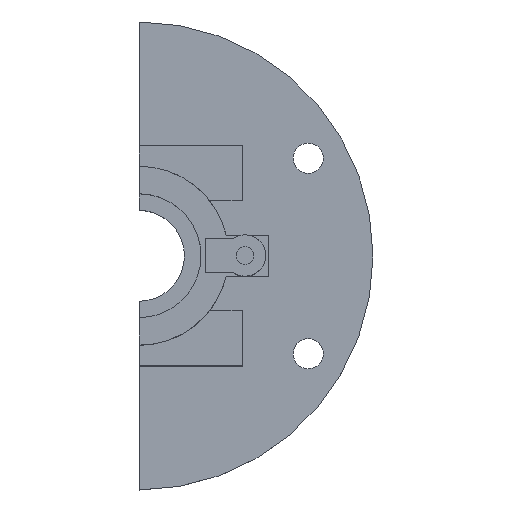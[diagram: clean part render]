
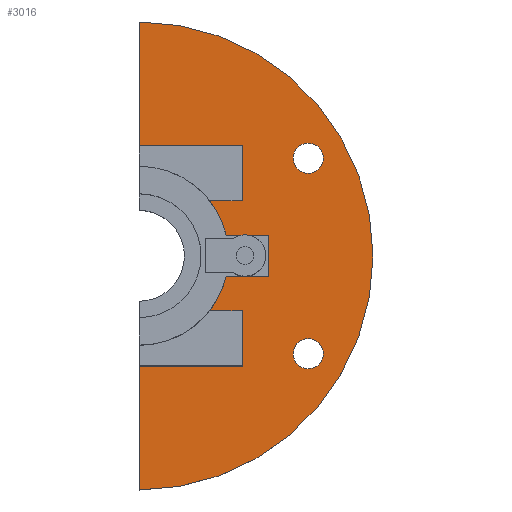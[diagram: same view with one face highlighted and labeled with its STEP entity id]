
A CAD part, top view. The second image highlights one B-rep face of the part: STEP entity #3016.
In plain terms, the highlighted planar face has unit normal (0, 0, 1).
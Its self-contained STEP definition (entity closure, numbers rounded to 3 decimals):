
#32 = CYLINDRICAL_SURFACE('',#33,6.5);
#33 = AXIS2_PLACEMENT_3D('',#34,#35,#36);
#34 = CARTESIAN_POINT('',(0.,0.,1.5));
#35 = DIRECTION('',(0.,0.,1.));
#36 = DIRECTION('',(1.,0.,-0.));
#44 = PLANE('',#45);
#45 = AXIS2_PLACEMENT_3D('',#46,#47,#48);
#46 = CARTESIAN_POINT('',(0.,-60.,-70.));
#47 = DIRECTION('',(1.,0.,0.));
#48 = DIRECTION('',(0.,0.,1.));
#210 = PLANE('',#211);
#211 = AXIS2_PLACEMENT_3D('',#212,#213,#214);
#212 = CARTESIAN_POINT('',(0.,-60.,-70.));
#213 = DIRECTION('',(1.,0.,0.));
#214 = DIRECTION('',(0.,0.,1.));
#307 = VERTEX_POINT('',#308);
#308 = CARTESIAN_POINT('',(0.,-6.5,3.));
#328 = EDGE_CURVE('',#307,#329,#331,.T.);
#329 = VERTEX_POINT('',#330);
#330 = CARTESIAN_POINT('',(0.,6.5,3.));
#331 = SURFACE_CURVE('',#332,(#337,#344),.PCURVE_S1.);
#332 = CIRCLE('',#333,6.5);
#333 = AXIS2_PLACEMENT_3D('',#334,#335,#336);
#334 = CARTESIAN_POINT('',(0.,0.,3.));
#335 = DIRECTION('',(0.,0.,1.));
#336 = DIRECTION('',(0.,-1.,0.));
#337 = PCURVE('',#32,#338);
#338 = DEFINITIONAL_REPRESENTATION('',(#339),#343);
#339 = LINE('',#340,#341);
#340 = CARTESIAN_POINT('',(4.712,1.5));
#341 = VECTOR('',#342,1.);
#342 = DIRECTION('',(1.,0.));
#343 = ( GEOMETRIC_REPRESENTATION_CONTEXT(2) 
PARAMETRIC_REPRESENTATION_CONTEXT() REPRESENTATION_CONTEXT('2D SPACE',''
  ) );
#344 = PCURVE('',#345,#350);
#345 = PLANE('',#346);
#346 = AXIS2_PLACEMENT_3D('',#347,#348,#349);
#347 = CARTESIAN_POINT('',(0.,0.,3.));
#348 = DIRECTION('',(0.,0.,1.));
#349 = DIRECTION('',(1.,0.,-0.));
#350 = DEFINITIONAL_REPRESENTATION('',(#351),#355);
#351 = CIRCLE('',#352,6.5);
#352 = AXIS2_PLACEMENT_2D('',#353,#354);
#353 = CARTESIAN_POINT('',(0.,0.));
#354 = DIRECTION('',(0.,-1.));
#355 = ( GEOMETRIC_REPRESENTATION_CONTEXT(2) 
PARAMETRIC_REPRESENTATION_CONTEXT() REPRESENTATION_CONTEXT('2D SPACE',''
  ) );
#773 = VERTEX_POINT('',#774);
#774 = CARTESIAN_POINT('',(0.,17.,3.));
#788 = CYLINDRICAL_SURFACE('',#789,17.);
#789 = AXIS2_PLACEMENT_3D('',#790,#791,#792);
#790 = CARTESIAN_POINT('',(0.,0.,1.5));
#791 = DIRECTION('',(0.,0.,1.));
#792 = DIRECTION('',(1.,0.,-0.));
#799 = EDGE_CURVE('',#329,#773,#800,.T.);
#800 = SURFACE_CURVE('',#801,(#805,#812),.PCURVE_S1.);
#801 = LINE('',#802,#803);
#802 = CARTESIAN_POINT('',(0.,-30.,3.));
#803 = VECTOR('',#804,1.);
#804 = DIRECTION('',(0.,1.,0.));
#805 = PCURVE('',#44,#806);
#806 = DEFINITIONAL_REPRESENTATION('',(#807),#811);
#807 = LINE('',#808,#809);
#808 = CARTESIAN_POINT('',(73.,-30.));
#809 = VECTOR('',#810,1.);
#810 = DIRECTION('',(0.,-1.));
#811 = ( GEOMETRIC_REPRESENTATION_CONTEXT(2) 
PARAMETRIC_REPRESENTATION_CONTEXT() REPRESENTATION_CONTEXT('2D SPACE',''
  ) );
#812 = PCURVE('',#345,#813);
#813 = DEFINITIONAL_REPRESENTATION('',(#814),#818);
#814 = LINE('',#815,#816);
#815 = CARTESIAN_POINT('',(0.,-30.));
#816 = VECTOR('',#817,1.);
#817 = DIRECTION('',(0.,1.));
#818 = ( GEOMETRIC_REPRESENTATION_CONTEXT(2) 
PARAMETRIC_REPRESENTATION_CONTEXT() REPRESENTATION_CONTEXT('2D SPACE',''
  ) );
#1347 = EDGE_CURVE('',#1348,#307,#1350,.T.);
#1348 = VERTEX_POINT('',#1349);
#1349 = CARTESIAN_POINT('',(0.,-17.,3.));
#1350 = SURFACE_CURVE('',#1351,(#1355,#1362),.PCURVE_S1.);
#1351 = LINE('',#1352,#1353);
#1352 = CARTESIAN_POINT('',(0.,-30.,3.));
#1353 = VECTOR('',#1354,1.);
#1354 = DIRECTION('',(0.,1.,0.));
#1355 = PCURVE('',#210,#1356);
#1356 = DEFINITIONAL_REPRESENTATION('',(#1357),#1361);
#1357 = LINE('',#1358,#1359);
#1358 = CARTESIAN_POINT('',(73.,-30.));
#1359 = VECTOR('',#1360,1.);
#1360 = DIRECTION('',(0.,-1.));
#1361 = ( GEOMETRIC_REPRESENTATION_CONTEXT(2) 
PARAMETRIC_REPRESENTATION_CONTEXT() REPRESENTATION_CONTEXT('2D SPACE',''
  ) );
#1362 = PCURVE('',#345,#1363);
#1363 = DEFINITIONAL_REPRESENTATION('',(#1364),#1368);
#1364 = LINE('',#1365,#1366);
#1365 = CARTESIAN_POINT('',(0.,-30.));
#1366 = VECTOR('',#1367,1.);
#1367 = DIRECTION('',(0.,1.));
#1368 = ( GEOMETRIC_REPRESENTATION_CONTEXT(2) 
PARAMETRIC_REPRESENTATION_CONTEXT() REPRESENTATION_CONTEXT('2D SPACE',''
  ) );
#3016 = ADVANCED_FACE('',(#3017,#3044,#3075),#345,.T.);
#3017 = FACE_BOUND('',#3018,.T.);
#3018 = EDGE_LOOP('',(#3019,#3041,#3042,#3043));
#3019 = ORIENTED_EDGE('',*,*,#3020,.T.);
#3020 = EDGE_CURVE('',#1348,#773,#3021,.T.);
#3021 = SURFACE_CURVE('',#3022,(#3027,#3034),.PCURVE_S1.);
#3022 = CIRCLE('',#3023,17.);
#3023 = AXIS2_PLACEMENT_3D('',#3024,#3025,#3026);
#3024 = CARTESIAN_POINT('',(0.,0.,3.));
#3025 = DIRECTION('',(0.,0.,1.));
#3026 = DIRECTION('',(0.,-1.,0.));
#3027 = PCURVE('',#345,#3028);
#3028 = DEFINITIONAL_REPRESENTATION('',(#3029),#3033);
#3029 = CIRCLE('',#3030,17.);
#3030 = AXIS2_PLACEMENT_2D('',#3031,#3032);
#3031 = CARTESIAN_POINT('',(0.,0.));
#3032 = DIRECTION('',(0.,-1.));
#3033 = ( GEOMETRIC_REPRESENTATION_CONTEXT(2) 
PARAMETRIC_REPRESENTATION_CONTEXT() REPRESENTATION_CONTEXT('2D SPACE',''
  ) );
#3034 = PCURVE('',#788,#3035);
#3035 = DEFINITIONAL_REPRESENTATION('',(#3036),#3040);
#3036 = LINE('',#3037,#3038);
#3037 = CARTESIAN_POINT('',(4.712,1.5));
#3038 = VECTOR('',#3039,1.);
#3039 = DIRECTION('',(1.,0.));
#3040 = ( GEOMETRIC_REPRESENTATION_CONTEXT(2) 
PARAMETRIC_REPRESENTATION_CONTEXT() REPRESENTATION_CONTEXT('2D SPACE',''
  ) );
#3041 = ORIENTED_EDGE('',*,*,#799,.F.);
#3042 = ORIENTED_EDGE('',*,*,#328,.F.);
#3043 = ORIENTED_EDGE('',*,*,#1347,.F.);
#3044 = FACE_BOUND('',#3045,.T.);
#3045 = EDGE_LOOP('',(#3046));
#3046 = ORIENTED_EDGE('',*,*,#3047,.F.);
#3047 = EDGE_CURVE('',#3048,#3048,#3050,.T.);
#3048 = VERTEX_POINT('',#3049);
#3049 = CARTESIAN_POINT('',(13.4,-7.1,3.));
#3050 = SURFACE_CURVE('',#3051,(#3056,#3063),.PCURVE_S1.);
#3051 = CIRCLE('',#3052,1.1);
#3052 = AXIS2_PLACEMENT_3D('',#3053,#3054,#3055);
#3053 = CARTESIAN_POINT('',(12.3,-7.1,3.));
#3054 = DIRECTION('',(0.,0.,1.));
#3055 = DIRECTION('',(1.,0.,-0.));
#3056 = PCURVE('',#345,#3057);
#3057 = DEFINITIONAL_REPRESENTATION('',(#3058),#3062);
#3058 = CIRCLE('',#3059,1.1);
#3059 = AXIS2_PLACEMENT_2D('',#3060,#3061);
#3060 = CARTESIAN_POINT('',(12.3,-7.1));
#3061 = DIRECTION('',(1.,0.));
#3062 = ( GEOMETRIC_REPRESENTATION_CONTEXT(2) 
PARAMETRIC_REPRESENTATION_CONTEXT() REPRESENTATION_CONTEXT('2D SPACE',''
  ) );
#3063 = PCURVE('',#3064,#3069);
#3064 = CYLINDRICAL_SURFACE('',#3065,1.1);
#3065 = AXIS2_PLACEMENT_3D('',#3066,#3067,#3068);
#3066 = CARTESIAN_POINT('',(12.3,-7.1,1.4));
#3067 = DIRECTION('',(0.,0.,1.));
#3068 = DIRECTION('',(1.,0.,-0.));
#3069 = DEFINITIONAL_REPRESENTATION('',(#3070),#3074);
#3070 = LINE('',#3071,#3072);
#3071 = CARTESIAN_POINT('',(0.,1.6));
#3072 = VECTOR('',#3073,1.);
#3073 = DIRECTION('',(1.,0.));
#3074 = ( GEOMETRIC_REPRESENTATION_CONTEXT(2) 
PARAMETRIC_REPRESENTATION_CONTEXT() REPRESENTATION_CONTEXT('2D SPACE',''
  ) );
#3075 = FACE_BOUND('',#3076,.T.);
#3076 = EDGE_LOOP('',(#3077));
#3077 = ORIENTED_EDGE('',*,*,#3078,.F.);
#3078 = EDGE_CURVE('',#3079,#3079,#3081,.T.);
#3079 = VERTEX_POINT('',#3080);
#3080 = CARTESIAN_POINT('',(13.4,7.1,3.));
#3081 = SURFACE_CURVE('',#3082,(#3087,#3094),.PCURVE_S1.);
#3082 = CIRCLE('',#3083,1.1);
#3083 = AXIS2_PLACEMENT_3D('',#3084,#3085,#3086);
#3084 = CARTESIAN_POINT('',(12.3,7.1,3.));
#3085 = DIRECTION('',(0.,0.,1.));
#3086 = DIRECTION('',(1.,0.,-0.));
#3087 = PCURVE('',#345,#3088);
#3088 = DEFINITIONAL_REPRESENTATION('',(#3089),#3093);
#3089 = CIRCLE('',#3090,1.1);
#3090 = AXIS2_PLACEMENT_2D('',#3091,#3092);
#3091 = CARTESIAN_POINT('',(12.3,7.1));
#3092 = DIRECTION('',(1.,0.));
#3093 = ( GEOMETRIC_REPRESENTATION_CONTEXT(2) 
PARAMETRIC_REPRESENTATION_CONTEXT() REPRESENTATION_CONTEXT('2D SPACE',''
  ) );
#3094 = PCURVE('',#3095,#3100);
#3095 = CYLINDRICAL_SURFACE('',#3096,1.1);
#3096 = AXIS2_PLACEMENT_3D('',#3097,#3098,#3099);
#3097 = CARTESIAN_POINT('',(12.3,7.1,1.4));
#3098 = DIRECTION('',(0.,0.,1.));
#3099 = DIRECTION('',(1.,0.,-0.));
#3100 = DEFINITIONAL_REPRESENTATION('',(#3101),#3105);
#3101 = LINE('',#3102,#3103);
#3102 = CARTESIAN_POINT('',(0.,1.6));
#3103 = VECTOR('',#3104,1.);
#3104 = DIRECTION('',(1.,0.));
#3105 = ( GEOMETRIC_REPRESENTATION_CONTEXT(2) 
PARAMETRIC_REPRESENTATION_CONTEXT() REPRESENTATION_CONTEXT('2D SPACE',''
  ) );
